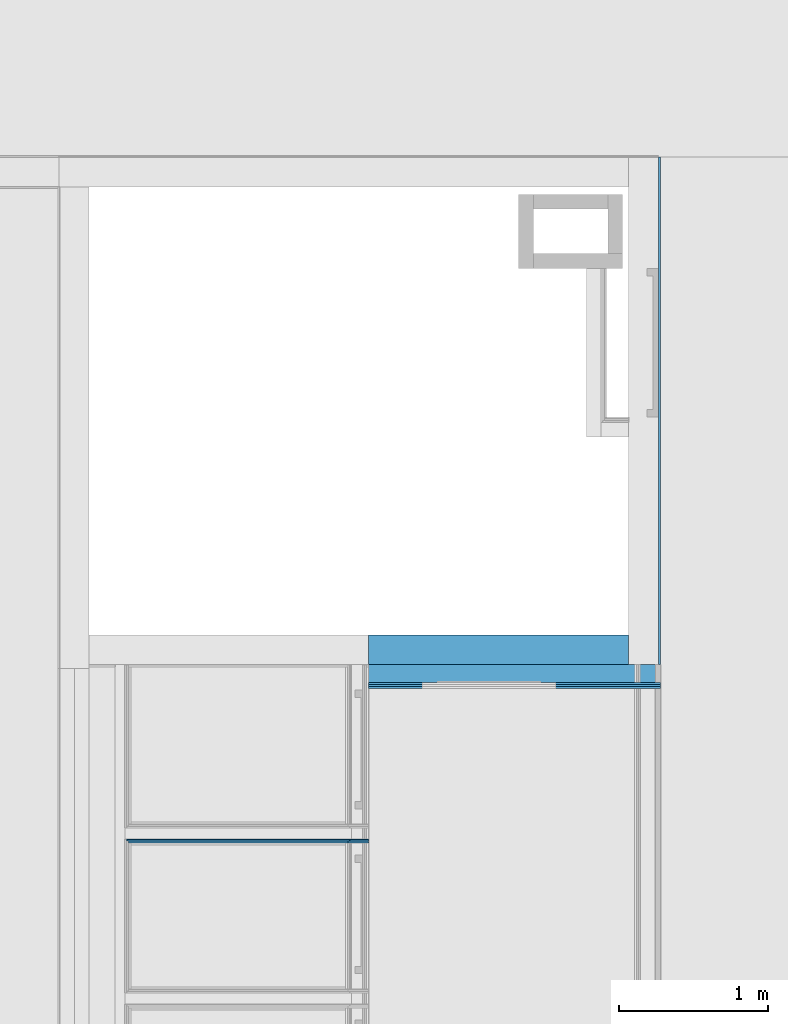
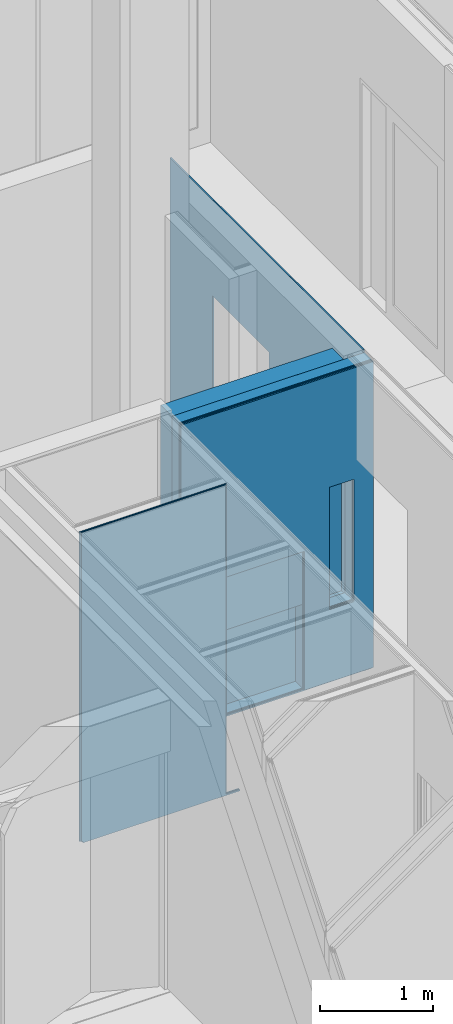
# One storey, part 117 of 139: 8 building element parts, 3 openings, 3 elements without a shape of their own.
"""IFC2X3 building model written with IfcOpenShell, lengths in millimetres."""

import ifcopenshell
import ifcopenshell.guid

model = None  # the IFC model being written
_history = None  # IfcOwnerHistory: only IFC2X3 demands one
_inside = {}  # id of a spatial element -> (the spatial element, [elements in it])
_under = {}  # id of a project, library or spatial element -> (it, [spatial elements below it])
_declared = {}  # id of a project -> (the project, [libraries it declares])
_typed = {}  # id of a type object -> (the type object, [elements of that type])
_made_of = {}  # id of a material, layer set ... -> (it, [elements and type objects made of it])


def new_model(schema):
    """Start an empty IFC model of exactly this schema.

    Asked for "IFC4X3", IfcOpenShell would pick the latest addendum, in which some entities
    have other attributes; the version numbers below select the first issue.
    IFC2X3 requires an IfcOwnerHistory on every rooted entity: one is made here for all.
    """
    global model, _history
    if schema == "IFC4X3":
        model = ifcopenshell.file(schema_version=(4, 3, 0, 0))
    else:
        model = ifcopenshell.file(schema=schema)
    _inside.clear()
    _under.clear()
    _declared.clear()
    _typed.clear()
    _made_of.clear()
    _history = None
    if model.schema == "IFC2X3":
        org = make("IfcOrganization", Name="unknown")
        user = make(
            "IfcPersonAndOrganization",
            ThePerson=make("IfcPerson", FamilyName="unknown"),
            TheOrganization=org,
        )
        app = make(
            "IfcApplication",
            ApplicationDeveloper=org,
            Version="unknown",
            ApplicationFullName="unknown",
            ApplicationIdentifier="unknown",
        )
        _history = make(
            "IfcOwnerHistory",
            OwningUser=user,
            OwningApplication=app,
            ChangeAction="ADDED",
            CreationDate=0,
        )
    return model


def make(cls, **values):
    """One entity of the class cls with the attributes given. An attribute that is None is left unset."""
    return model.create_entity(
        cls, **{name: value for name, value in values.items() if value is not None}
    )


def entity(cls, *values):
    """Any entity or typed value of the class cls, its attributes in the order of the schema. None: left unset."""
    e = model.create_entity(cls)
    for i, value in enumerate(values):
        if value is not None:
            e[i] = value
    return e


def rooted(cls, **values):
    """An entity with a GlobalId (a new one), such as an element, a storey or a relation."""
    return make(cls, GlobalId=ifcopenshell.guid.new(), OwnerHistory=_history, **values)


def si_unit(unit_type, name, prefix=None):
    """IfcSIUnit, for example si_unit("LENGTHUNIT", "METRE", prefix="MILLI")."""
    return make("IfcSIUnit", UnitType=unit_type, Prefix=prefix, Name=name)


def converted_unit(unit_type, name, factor, base, dimensions=None, offset=None):
    """IfcConversionBasedUnit, such as the inch: factor (a typed value) times the base unit."""
    return make(
        "IfcConversionBasedUnit"
        if offset is None
        else "IfcConversionBasedUnitWithOffset",
        ConversionOffset=offset,
        Dimensions=None
        if dimensions is None
        else entity("IfcDimensionalExponents", *dimensions),
        UnitType=unit_type,
        Name=name,
        ConversionFactor=make(
            "IfcMeasureWithUnit", ValueComponent=factor, UnitComponent=base
        ),
    )


def derived_unit(unit_type, elements):
    """IfcDerivedUnit: a product of units, each with its exponent."""
    return make(
        "IfcDerivedUnit",
        Elements=[
            make("IfcDerivedUnitElement", Unit=unit, Exponent=power)
            for unit, power in elements
        ],
        UnitType=unit_type,
    )


def money_unit(currency):
    """IfcMonetaryUnit."""
    return make("IfcMonetaryUnit", Currency=currency)


def assignment(units):
    """IfcUnitAssignment: the units of a project."""
    return None if units is None else make("IfcUnitAssignment", Units=units)


def point(xyz):
    """IfcCartesianPoint."""
    return None if xyz is None else make("IfcCartesianPoint", Coordinates=xyz)


def direction(xyz):
    """IfcDirection."""
    return None if xyz is None else make("IfcDirection", DirectionRatios=xyz)


def frame(location, z_axis=None, x_axis=None):
    """IfcAxis2Placement3D, a coordinate frame: its origin and axes. An axis left out is left unset."""
    return make(
        "IfcAxis2Placement3D",
        Location=point(location),
        Axis=direction(z_axis),
        RefDirection=direction(x_axis),
    )


def origin_with_axes():
    """The frame at (0, 0, 0) with the z axis (0, 0, 1) and the x axis (1, 0, 0) written out."""
    return frame((0.0, 0.0, 0.0), z_axis=(0.0, 0.0, 1.0), x_axis=(1.0, 0.0, 0.0))


def place(relative_to, where):
    """IfcLocalPlacement: puts the frame where relative to a parent placement (None: the world)."""
    return make(
        "IfcLocalPlacement", PlacementRelTo=relative_to, RelativePlacement=where
    )


def context(
    kind, dimensions, precision=None, world=None, true_north=None, identifier=None
):
    """IfcGeometricRepresentationContext, for example the 3D "Model" context."""
    return make(
        "IfcGeometricRepresentationContext",
        ContextIdentifier=identifier,
        ContextType=kind,
        CoordinateSpaceDimension=dimensions,
        Precision=precision,
        WorldCoordinateSystem=world,
        TrueNorth=true_north,
    )


def subcontext(parent, identifier, kind, view, scale=None):
    """IfcGeometricRepresentationSubContext, for example "Body" below "Model"."""
    return make(
        "IfcGeometricRepresentationSubContext",
        ContextIdentifier=identifier,
        ContextType=kind,
        ParentContext=parent,
        TargetScale=scale,
        TargetView=view,
    )


def project(units=None, contexts=None):
    """IfcProject with its units and contexts."""
    return rooted(
        "IfcProject",
        Name="project",
        RepresentationContexts=contexts,
        UnitsInContext=assignment(units),
    )


def spatial(cls, under=None, at=None, **own):
    """A site, building, storey or space (cls), placed at a placement, below another one or the project."""
    s = rooted(cls, ObjectPlacement=at, **own)
    if under is not None:
        _under.setdefault(under.id(), (under, []))[1].append(s)
    return s


def faces_of(points, faces, orient=None, outer=None):
    """IfcFace entities. A face is a list of loops; a loop is a list of indices into points, from 0.

    orient and outer hold one flag for each loop. By default every Orientation is true, the
    first loop of a face is its IfcFaceOuterBound and the others are IfcFaceBound.
    """
    made = []
    for i, loops in enumerate(faces):
        bounds = []
        for j, loop in enumerate(loops):
            is_outer = j == 0 if outer is None else outer[i][j]
            bounds.append(
                make(
                    "IfcFaceOuterBound" if is_outer else "IfcFaceBound",
                    Bound=make("IfcPolyLoop", Polygon=[points[k] for k in loop]),
                    Orientation=True if orient is None else orient[i][j],
                )
            )
        made.append(make("IfcFace", Bounds=bounds))
    return made


def faceted_brep(points, faces, orient=None, outer=None, voids=None):
    """IfcFacetedBrep: a solid bounded by flat faces; with voids (closed shells), ...WithVoids."""
    shared = [point(p) for p in points]
    hull = make("IfcClosedShell", CfsFaces=faces_of(shared, faces, orient, outer))
    if voids is None:
        return make("IfcFacetedBrep", Outer=hull)
    return make(
        "IfcFacetedBrepWithVoids",
        Outer=hull,
        Voids=[
            make(cls, CfsFaces=faces_of(shared, fs, o, b)) for cls, fs, o, b in voids
        ],
    )


def shape(context_of_items, identifier, shape_type, items):
    """IfcShapeRepresentation: the items that make up one representation, for example the "Body"."""
    return make(
        "IfcShapeRepresentation",
        ContextOfItems=context_of_items,
        RepresentationIdentifier=identifier,
        RepresentationType=shape_type,
        Items=items,
    )


def material(Name=None, Category=None):
    """IfcMaterial."""
    return make("IfcMaterial", Name=Name, Category=Category)


def made_of(thing, what):
    """Note that an element or type object is made of a material, layer set ...; save() writes the relation."""
    if what is not None:
        _made_of.setdefault(what.id(), (what, []))[1].append(thing)
    return thing


def type_object(cls, material=None, **own):
    """A type object (cls), such as IfcWallType, which elements share."""
    return made_of(rooted(cls, **own), material)


def element(
    cls,
    number,
    at=None,
    inside=None,
    cuts=None,
    type_object=None,
    material=None,
    context=None,
    identifier="Body",
    shape_type=None,
    held_by="IfcProductDefinitionShape",
    body=None,
    shapes=None,
    **own,
):
    """One element of the class cls, such as IfcWall. Its Tag is "e" and its number.

    at: its placement. inside: the storey or other place that contains it. cuts: it is an
    opening in that element (IfcRelVoidsElement). A single representation is given by context,
    identifier, shape_type and body (its items); several are given by shapes. held_by: the class
    of the entity that holds the representations. save() writes the other relations.
    """
    e = rooted(cls, Tag="e%d" % number, ObjectPlacement=at, **own)
    if body is not None:
        shapes = [shape(context, identifier, shape_type, body)]
    if shapes is not None:
        e.Representation = make(held_by, Representations=shapes)
    if inside is not None:
        _inside.setdefault(inside.id(), (inside, []))[1].append(e)
    if cuts is not None:
        rooted(
            "IfcRelVoidsElement", RelatingBuildingElement=cuts, RelatedOpeningElement=e
        )
    if type_object is not None:
        _typed.setdefault(type_object.id(), (type_object, []))[1].append(e)
    return made_of(e, material)


def aggregate(whole, parts):
    """IfcRelAggregates: a whole, such as a stair, and the parts it consists of."""
    return rooted("IfcRelAggregates", RelatingObject=whole, RelatedObjects=parts)


def save(model, path):
    """Write the relations noted so far, then the file.

    IfcRelAggregates (storeys below a building ...), IfcRelContainedInSpatialStructure (elements
    in a storey), IfcRelDefinesByType, IfcRelAssociatesMaterial and IfcRelDeclares: one each for
    every whole, place, type object, material and project.
    """
    for whole, parts in _under.values():
        aggregate(whole, parts)
    for where, things in _inside.values():
        rooted(
            "IfcRelContainedInSpatialStructure",
            RelatedElements=things,
            RelatingStructure=where,
        )
    for kind, things in _typed.values():
        rooted("IfcRelDefinesByType", RelatedObjects=things, RelatingType=kind)
    for what, things in _made_of.values():
        rooted("IfcRelAssociatesMaterial", RelatedObjects=things, RelatingMaterial=what)
    for by, libraries in _declared.values():
        rooted("IfcRelDeclares", RelatingContext=by, RelatedDefinitions=libraries)
    model.write(path)


model = new_model("IFC2X3")

# Units and contexts
model_context = context("Model", 3, precision=0.01, world=origin_with_axes(), true_north=direction((0.0, 1.0)))
body_context = subcontext(model_context, "Body", "Model", "MODEL_VIEW")
ifc_project = project(units=[si_unit("LENGTHUNIT", "METRE", prefix="MILLI"), si_unit("AREAUNIT", "SQUARE_METRE"), si_unit("VOLUMEUNIT", "CUBIC_METRE"), converted_unit("PLANEANGLEUNIT", "DEGREE", entity("IfcPlaneAngleMeasure", 0.0174532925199), si_unit("PLANEANGLEUNIT", "RADIAN"), dimensions=[0, 0, 0, 0, 0, 0, 0]), money_unit("EUR"), converted_unit("TIMEUNIT", "Year", entity("IfcTimeMeasure", 31556926.0), si_unit("TIMEUNIT", "SECOND"), dimensions=[0, 0, 1, 0, 0, 0, 0]), si_unit("MASSUNIT", "GRAM", prefix="KILO"), si_unit("THERMODYNAMICTEMPERATUREUNIT", "DEGREE_CELSIUS"), si_unit("LUMINOUSINTENSITYUNIT", "LUMEN"), si_unit("ENERGYUNIT", "JOULE", prefix="MEGA"), derived_unit("THERMALCONDUCTANCEUNIT", [(si_unit("POWERUNIT", "WATT"), 1), (si_unit("LENGTHUNIT", "METRE"), -1), (si_unit("THERMODYNAMICTEMPERATUREUNIT", "KELVIN"), -1)]), derived_unit("SPECIFICHEATCAPACITYUNIT", [(si_unit("ENERGYUNIT", "JOULE"), 1), (si_unit("MASSUNIT", "GRAM", prefix="KILO"), -1), (si_unit("THERMODYNAMICTEMPERATUREUNIT", "KELVIN"), -1)]), derived_unit("MASSDENSITYUNIT", [(si_unit("MASSUNIT", "GRAM", prefix="KILO"), 1), (si_unit("VOLUMEUNIT", "CUBIC_METRE"), -1)])], contexts=[model_context])

# Site, building, storey
site_placement = place(None, origin_with_axes())
site = spatial("IfcSite", under=ifc_project, at=site_placement, Name="Kolde pst 67a", CompositionType="ELEMENT")
building_placement = place(site_placement, origin_with_axes())
building = spatial("IfcBuilding", under=site, at=building_placement, Name="Riigigümnaasium", CompositionType="ELEMENT")
storey_placement = place(building_placement, frame((0.0, 0.0, 4600.0), z_axis=(0.0, 0.0, 1.0), x_axis=(1.0, 0.0, 0.0)))
storey = spatial("IfcBuildingStorey", under=building, at=storey_placement, Name="2. korrus", CompositionType="ELEMENT", Elevation=4600.0)

# Wall, opening, building element part
wall_type_1 = type_object("IfcWallType", Name="SS-KP-20/2_plokksein 1xplaaditud (1) 215", PredefinedType="NOTDEFINED")
wall_1_placement = place(storey_placement, frame((73779.99953, 24440.0001779, -130.0), z_axis=(0.0, 0.0, 1.0), x_axis=(0.0, -1.0, 0.0)))
wall_1 = element("IfcWall", 1, at=wall_1_placement, inside=storey, type_object=wall_type_1, Name="Sisesein")
opening_1_placement = place(wall_1_placement, frame((1250.00095477, 0.0, 130.0), z_axis=(0.0, 0.0, 1.0), x_axis=(1.0, 0.0, 0.0)))
element("IfcOpeningElement", 2, at=opening_1_placement, cuts=wall_1, Name="Siseuks", context=body_context, shape_type="Brep", body=[
    faceted_brep([(-500.0, 430.0, 2300.0), (-500.0, 430.0, 0.0), (-500.0, -215.0, 0.0), (-500.0, -215.0, 2300.0), (500.0, 430.0, 2300.0), (500.0, 430.0, 0.0), (500.0, -215.0, 0.0), (500.0, -215.0, 2300.0)], [[[0, 1, 2, 3]], [[0, 4, 5, 1]], [[1, 5, 6, 2]], [[3, 2, 6, 7]], [[4, 0, 3, 7]], [[5, 4, 7, 6]]]),
])
ifc_material_1 = material(Name="_VIIMISTLUSKIHT - viimistlus vastavalt SA osale")
building_element_part_1_placement = place(wall_1_placement, origin_with_axes())
building_element_part_1 = element("IfcBuildingElementPart", 3, at=building_element_part_1_placement, material=ifc_material_1, Name="_VIIMISTLUSKIHT - viimistlus vastavalt SA osale", context=body_context, shape_type="Brep", body=[
    faceted_brep([(1750.00095477, 15.0, 130.0), (1750.00095477, 15.0, 2430.0), (750.000954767, 15.0, 2430.0), (750.000954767, 15.0, 130.0), (0.0, 15.0, 130.0), (0.0, 15.0, 3465.0), (3416.21485491, 15.0, 3464.99999881), (3416.21487002, 15.0, 3430.0), (3416.21487002, 15.0, 130.0), (1750.00095477, -4.17252579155e-05, 130.0), (1750.00095477, -7.66841878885e-05, 2430.0), (750.000954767, -7.66841878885e-05, 2430.0), (750.000954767, -1.78822716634e-05, 130.0), (0.0, 0.0, 130.0), (0.0, 0.0, 3465.0), (3416.21485491, 9.68583435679e-07, 3464.99999881), (3416.21485491, -7.66841878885e-05, 130.0), (3216.21485077, -7.66841878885e-05, 130.0)], [[[0, 1, 2, 3, 4, 5, 6, 7, 8]], [[1, 0, 9, 10]], [[2, 1, 10, 11]], [[3, 2, 11, 12]], [[3, 12, 13, 4]], [[13, 14, 5, 4]], [[14, 15, 6, 5]], [[7, 6, 15, 16, 8]], [[9, 0, 8, 16, 17]], [[10, 9, 17, 16, 15, 14, 13, 12, 11]]]),
])
aggregate(wall_1, [building_element_part_1])

# Wall, building element parts
wall_type_2 = type_object("IfcWallType", Name="SS-MK-7,5/1_plaaditud 155", PredefinedType="NOTDEFINED")
wall_2_placement = place(storey_placement, frame((70229.9982905, 19964.9999708, -15.0), z_axis=(0.0, 0.0, 1.0), x_axis=(1.0, 0.0, 0.0)))
wall_2 = element("IfcWall", 4, at=wall_2_placement, inside=storey, type_object=wall_type_2, Name="Sisesein")
ifc_material_2 = material(Name="_PLAATMATERJAL - kipsplaat veekindel")
building_element_part_2_placement = place(wall_2_placement, origin_with_axes())
building_element_part_2 = element("IfcBuildingElementPart", 5, at=building_element_part_2_placement, material=ifc_material_2, Name="_PLAATMATERJAL - kipsplaat veekindel", context=body_context, shape_type="Brep", body=[
    faceted_brep([(-27.4994919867, -115.0, 3350.0), (1472.50121569, -115.0, 3350.0), (1472.50121569, -115.0, 15.0), (1600.00121569, -115.0, 15.0), (1600.00117477, -115.0, 0.0), (0.0, -115.0, 0.0), (0.0, -115.0, 15.0), (-27.4994919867, -115.0, 15.0), (1472.50121724, -127.5, 3350.0), (-27.4994919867, -127.5, 3350.0), (1472.50121724, -127.5, 15.0), (1600.00121724, -127.5, 15.0), (1600.00117477, -127.5, 0.0), (0.0, -127.5, 0.0), (0.0, -127.5, 15.0), (-27.4994919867, -127.5, 15.0)], [[[0, 1, 2, 3, 4, 5, 6, 7]], [[8, 1, 0, 9]], [[1, 8, 10, 2]], [[3, 2, 10, 11]], [[4, 3, 11, 12]], [[13, 5, 4, 12]], [[13, 14, 6, 5]], [[14, 15, 7, 6]], [[9, 0, 7, 15]], [[8, 9, 15, 14, 13, 12, 11, 10]]]),
])
building_element_part_3_placement = place(wall_2_placement, origin_with_axes())
building_element_part_3 = element("IfcBuildingElementPart", 6, at=building_element_part_3_placement, material=ifc_material_2, Name="_PLAATMATERJAL - kipsplaat veekindel", context=body_context, shape_type="Brep", body=[
    faceted_brep([(-14.9994932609, -127.5, 3350.0), (1460.00121814, -127.5, 3350.0), (1460.00121724, -127.5, 15.0), (1600.00121724, -127.5, 15.0), (1600.00117477, -127.5, 0.0), (0.0, -127.5, 0.0), (0.0, -127.5, 15.0), (-14.9994919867, -127.5, 15.0), (1460.00121969, -140.0, 3350.0), (-14.9994932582, -140.0, 3350.0), (1460.00121879, -140.0, 15.0), (1600.00121879, -140.0, 15.0), (1600.00117477, -140.0, 0.0), (0.0, -140.0, 0.0), (0.0, -140.0, 15.0), (-14.9994919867, -140.0, 15.0)], [[[0, 1, 2, 3, 4, 5, 6, 7]], [[8, 1, 0, 9]], [[1, 8, 10, 2]], [[3, 2, 10, 11]], [[4, 3, 11, 12]], [[13, 5, 4, 12]], [[13, 14, 6, 5]], [[14, 15, 7, 6]], [[9, 0, 7, 15]], [[8, 9, 15, 14, 13, 12, 11, 10]]]),
])
aggregate(wall_2, [building_element_part_2, building_element_part_3])

# Wall, openings, building element parts
wall_type_3 = type_object("IfcWallType", Name="SS-KP-20/5_plokksein 1xplaaditud+kollektor 360", PredefinedType="NOTDEFINED")
wall_3_placement = place(storey_placement, frame((71829.9993607, 21023.7853079, -80.0), z_axis=(0.0, 0.0, 1.0), x_axis=(1.0, 7.74960108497e-09, 0.0)))
wall_3 = element("IfcWall", 7, at=wall_3_placement, inside=storey, type_object=wall_type_3, Name="Sisesein")
opening_2_placement = place(wall_3_placement, frame((-71829.9995236, -21023.7847512, -4520.0), z_axis=(0.0, 0.0, 1.0), x_axis=(1.0, -7.74960108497e-09, 0.0)))
element("IfcOpeningElement", 8, at=opening_2_placement, cuts=wall_3, Name="Tulekustuti nišš vastavalt SA osale", ObjectType="OPENING", context=body_context, shape_type="Brep", body=[
    faceted_brep([(73344.9995316, 20863.7853194, 5380.0), (73344.9995316, 20863.7853194, 6700.0), (73344.9995301, 21063.7853194, 6700.0), (73344.9995301, 21063.7853194, 5380.0), (73594.9995316, 20863.7853213, 5380.0), (73594.9995316, 20863.7853213, 6700.0), (73594.9995301, 21063.7853213, 6700.0), (73594.9995301, 21063.7853213, 5380.0)], [[[0, 1, 2, 3]], [[0, 4, 5, 1]], [[1, 5, 6, 2]], [[3, 2, 6, 7]], [[4, 0, 3, 7]], [[5, 4, 7, 6]]]),
])
opening_3_placement = place(wall_3_placement, frame((-71829.9995236, -21023.7847512, -4520.0), z_axis=(0.0, 0.0, 1.0), x_axis=(1.0, -7.74960108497e-09, 0.0)))
element("IfcOpeningElement", 9, at=opening_3_placement, cuts=wall_3, Name="Küttekollektori nišš, luuk vastavalt SA osale", ObjectType="OPENING", context=body_context, shape_type="Brep", body=[
    faceted_brep([(72189.9995313, 20863.7853067, 4600.0), (72189.9995313, 20863.7853067, 5500.0), (72189.99953, 21023.7853067, 5500.0), (72189.99953, 21023.7853067, 4600.0), (73089.9995313, 20863.7853136, 4600.0), (73089.9995313, 20863.7853136, 5500.0), (73089.99953, 21023.7853136, 5500.0), (73089.99953, 21023.7853136, 4600.0)], [[[0, 1, 2, 3]], [[0, 4, 5, 1]], [[1, 5, 6, 2]], [[3, 2, 6, 7]], [[4, 0, 3, 7]], [[5, 4, 7, 6]]]),
])
ifc_material_3 = material(Name="_KANDETARIND - kergplokk Fibo3 200mm")
building_element_part_4_placement = place(wall_3_placement, origin_with_axes())
building_element_part_4 = element("IfcBuildingElementPart", 10, at=building_element_part_4_placement, material=ifc_material_3, Name="_KANDETARIND - kergplokk Fibo3 200mm", context=body_context, shape_type="Brep", body=[
    faceted_brep([(1750.00016936, -1.35618023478e-05, 3380.0), (0.0, 0.0, 3380.0), (0.0, 0.0, 0.0), (1750.00016936, -1.35618023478e-05, 0.0), (1750.00016936, -1.35618023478e-05, 860.0), (1515.00016969, -1.17406457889e-05, 860.0), (1515.00016969, -1.17406457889e-05, 2180.0), (1750.00016936, -1.35618023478e-05, 2180.0), (1750.00017091, 199.999986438, 3380.0), (1.54992108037e-06, 200.0, 3380.0), (1.54992108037e-06, 200.0, 0.0), (1750.00017091, 199.999986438, 0.0), (1750.00016967, 39.9999997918, 2180.0), (1750.00016967, 39.9999997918, 860.0), (1515.00016969, 39.9999997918, 860.0), (1515.00016969, 39.9999997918, 2180.0)], [[[0, 1, 2, 3, 4, 5, 6, 7]], [[8, 9, 1, 0]], [[2, 1, 9, 10]], [[3, 2, 10, 11]], [[4, 3, 11, 8, 0, 7, 12, 13]], [[14, 5, 4, 13]], [[15, 6, 5, 14]], [[12, 7, 6, 15]], [[11, 10, 9, 8]], [[13, 12, 15, 14]]]),
])
ifc_material_4 = material(Name="_KARKASS - eriprofiilkinnitus vastavalt sisemisele plaatviimistlusele")
building_element_part_5_placement = place(wall_3_placement, origin_with_axes())
building_element_part_5 = element("IfcBuildingElementPart", 11, at=building_element_part_5_placement, material=ifc_material_4, Name="_KARKASS - eriprofiilkinnitus vastavalt sisemisele plaatviimistlusele", context=body_context, shape_type="Brep", body=[
    faceted_brep([(1950.00009174, -120.000015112, 77.0), (1950.00016843, -120.000015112, 65.0), (1950.00016936, -1.51117234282e-05, 65.0), (1950.00009267, -1.51117234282e-05, 77.0), (-9.29944121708e-07, -120.0, 3380.0), (-9.29944121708e-07, -120.0, 65.0), (1965.00016843, -120.000015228, 77.0), (1965.00016843, -120.000015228, 3380.0), (1515.00016969, -120.000011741, 2180.0), (1765.00016969, -120.000013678, 2180.0), (1765.00016969, -120.000013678, 860.0), (1515.00016969, -120.000011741, 860.0), (360.000169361, -120.00000279, 980.0), (1260.00016936, -120.000009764, 980.0), (1260.00016936, -120.000009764, 80.0), (360.000169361, -120.00000279, 80.0), (0.0, 0.0, 65.0), (0.0, 0.0, 3380.0), (1965.00016936, -1.52279682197e-05, 3380.0), (1965.00016936, -1.52279682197e-05, 77.0), (1765.00016969, -1.36780471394e-05, 860.0), (1765.00016969, -1.36780471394e-05, 2180.0), (1515.00016969, -1.17406457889e-05, 2180.0), (1515.00016969, -1.17406457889e-05, 860.0), (1260.00016936, -4.00020994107e-06, 80.0), (1260.00016936, -4.00020994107e-06, 980.0), (360.00016936, -4.00020994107e-06, 980.0), (360.00016936, -4.00020994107e-06, 80.0)], [[[0, 1, 2, 3]], [[4, 5, 1, 0, 6, 7], [8, 9, 10, 11], [12, 13, 14, 15]], [[5, 16, 2, 1]], [[3, 2, 16, 17, 18, 19], [20, 21, 22, 23], [24, 25, 26, 27]], [[0, 3, 19, 6]], [[17, 16, 5, 4]], [[7, 6, 19, 18]], [[4, 7, 18, 17]], [[21, 9, 8, 22]], [[20, 10, 9, 21]], [[23, 11, 10, 20]], [[22, 8, 11, 23]], [[25, 13, 12, 26]], [[24, 14, 13, 25]], [[27, 15, 14, 24]], [[26, 12, 15, 27]]]),
])
building_element_part_6_placement = place(wall_3_placement, origin_with_axes())
building_element_part_6 = element("IfcBuildingElementPart", 12, at=building_element_part_6_placement, material=ifc_material_2, Name="_PLAATMATERJAL - kipsplaat veekindel", context=body_context, shape_type="Brep", body=[
    faceted_brep([(1950.00009174, -120.000015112, 77.0), (1950.00016843, -120.000015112, 65.0), (-9.29944121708e-07, -120.0, 65.0), (-9.29944121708e-07, -120.0, 3380.0), (1965.00016843, -120.000015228, 3380.0), (1965.00016843, -120.000015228, 77.0), (1765.00016969, -120.000013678, 860.0), (1765.00016969, -120.000013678, 2180.0), (1515.00016969, -120.000011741, 2180.0), (1515.00016969, -120.000011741, 860.0), (360.000162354, -119.999997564, 1580.0), (360.000162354, -119.999997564, 980.0), (360.000169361, -120.00000279, 80.0), (1260.00016936, -120.000009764, 80.0), (1260.00018049, -120.000004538, 980.0), (1260.00018049, -120.000004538, 1580.0), (1950.00009165, -132.500015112, 77.0), (1950.00016833, -132.500015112, 65.0), (-1.0268195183e-06, -132.5, 65.0), (-1.0268195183e-06, -132.5, 3380.0), (1965.00016833, -132.500015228, 3380.0), (1965.00016833, -132.500015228, 77.0), (1765.00016969, -132.500013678, 860.0), (1765.00016969, -132.500013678, 2180.0), (1515.00016969, -132.500011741, 2180.0), (1515.00016969, -132.500011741, 860.0), (360.000162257, -132.499997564, 1580.0), (360.000162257, -132.499997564, 980.0), (360.00016936, -132.50000279, 80.0), (1260.00016936, -132.500009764, 80.0), (1260.0001804, -132.500004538, 980.0), (1260.0001804, -132.500004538, 1580.0)], [[[0, 1, 2, 3, 4, 5], [6, 7, 8, 9], [10, 11, 12, 13, 14, 15]], [[16, 17, 1, 0]], [[18, 2, 1, 17]], [[3, 2, 18, 19]], [[19, 20, 4, 3]], [[20, 21, 5, 4]], [[16, 0, 5, 21]], [[6, 22, 23, 7]], [[7, 23, 24, 8]], [[8, 24, 25, 9]], [[9, 25, 22, 6]], [[11, 10, 26, 27]], [[11, 27, 28, 12]], [[12, 28, 29, 13]], [[30, 14, 13, 29]], [[15, 14, 30, 31]], [[10, 15, 31, 26]], [[19, 18, 17, 16, 21, 20], [24, 23, 22, 25], [31, 30, 29, 28, 27, 26]]]),
])
building_element_part_7_placement = place(wall_3_placement, origin_with_axes())
building_element_part_7 = element("IfcBuildingElementPart", 13, at=building_element_part_7_placement, material=ifc_material_2, Name="_PLAATMATERJAL - kipsplaat veekindel", context=body_context, shape_type="Brep", body=[
    faceted_brep([(1950.00009165, -132.500015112, 77.0), (1950.00016833, -132.500015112, 65.0), (-1.0268195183e-06, -132.5, 65.0), (-1.0268195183e-06, -132.5, 3380.0), (1965.00016833, -132.500015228, 3380.0), (1965.00016833, -132.500015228, 77.0), (1765.00016969, -132.500013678, 860.0), (1765.00016969, -132.500013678, 2180.0), (1515.00016969, -132.500011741, 2180.0), (1515.00016969, -132.500011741, 860.0), (360.000162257, -132.499997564, 1580.0), (360.000162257, -132.499997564, 980.0), (360.00016936, -132.50000279, 80.0), (1260.00016936, -132.500009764, 80.0), (1260.0001804, -132.500004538, 980.0), (1260.0001804, -132.500004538, 1580.0), (1950.00009155, -145.000015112, 77.0), (1950.00016824, -145.000015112, 65.0), (-1.12368070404e-06, -145.0, 65.0), (-1.12368070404e-06, -145.0, 3380.0), (1965.00016824, -145.000015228, 3380.0), (1965.00016824, -145.000015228, 77.0), (1765.00016969, -145.000013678, 860.0), (1765.00016969, -145.000013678, 2180.0), (1515.00016969, -145.000011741, 2180.0), (1515.00016969, -145.000011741, 860.0), (360.00016216, -144.999997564, 1580.0), (360.00016216, -144.999997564, 980.0), (360.000169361, -145.00000279, 80.0), (1260.00016936, -145.000009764, 80.0), (1260.0001803, -145.000004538, 980.0), (1260.0001803, -145.000004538, 1580.0)], [[[0, 1, 2, 3, 4, 5], [6, 7, 8, 9], [10, 11, 12, 13, 14, 15]], [[16, 17, 1, 0]], [[18, 2, 1, 17]], [[3, 2, 18, 19]], [[19, 20, 4, 3]], [[20, 21, 5, 4]], [[16, 0, 5, 21]], [[6, 22, 23, 7]], [[7, 23, 24, 8]], [[8, 24, 25, 9]], [[9, 25, 22, 6]], [[11, 10, 26, 27]], [[11, 27, 28, 12]], [[12, 28, 29, 13]], [[30, 14, 13, 29]], [[15, 14, 30, 31]], [[10, 15, 31, 26]], [[19, 18, 17, 16, 21, 20], [24, 23, 22, 25], [31, 30, 29, 28, 27, 26]]]),
])
building_element_part_8_placement = place(wall_3_placement, origin_with_axes())
building_element_part_8 = element("IfcBuildingElementPart", 14, at=building_element_part_8_placement, material=ifc_material_1, Name="_VIIMISTLUSKIHT - viimistlus vastavalt SA osale", context=body_context, shape_type="Brep", body=[
    faceted_brep([(360.00016216, -144.999997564, 1580.0), (360.00016216, -144.999997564, 980.0), (360.000169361, -145.00000279, 80.0), (-1.12368070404e-06, -145.0, 80.0), (-1.12368070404e-06, -145.0, 3380.0), (1965.00016824, -145.000015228, 3380.0), (1965.00016824, -145.000015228, 80.0), (1260.00016936, -145.000009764, 80.0), (1260.0001803, -145.000004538, 980.0), (1260.0001803, -145.000004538, 1580.0), (1765.00016969, -145.000013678, 860.0), (1765.00016969, -145.000013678, 2180.0), (1515.00016969, -145.000011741, 2180.0), (1515.00016969, -145.000011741, 860.0), (360.000162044, -159.999997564, 1580.0), (360.000162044, -159.999997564, 980.0), (360.000169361, -160.000004, 80.0), (-1.23992549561e-06, -160.0, 80.0), (-1.23992549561e-06, -160.0, 3380.0), (1965.00016812, -160.000015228, 3380.0), (1965.00016812, -160.000015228, 80.0), (1260.00016936, -160.000004, 80.0), (1260.00018018, -160.000004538, 980.0), (1260.00018018, -160.000004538, 1580.0), (1765.00016969, -160.000000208, 860.0), (1765.00016969, -160.000000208, 2180.0), (1515.00016969, -160.000000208, 2180.0), (1515.00016969, -160.000000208, 860.0)], [[[0, 1, 2, 3, 4, 5, 6, 7, 8, 9], [10, 11, 12, 13]], [[1, 0, 14, 15]], [[1, 15, 16, 2]], [[17, 3, 2, 16]], [[4, 3, 17, 18]], [[18, 19, 5, 4]], [[19, 20, 6, 5]], [[6, 20, 21, 7]], [[22, 8, 7, 21]], [[9, 8, 22, 23]], [[0, 9, 23, 14]], [[10, 24, 25, 11]], [[11, 25, 26, 12]], [[12, 26, 27, 13]], [[13, 27, 24, 10]], [[23, 22, 21, 20, 19, 18, 17, 16, 15, 14], [26, 25, 24, 27]]]),
])
aggregate(wall_3, [building_element_part_4, building_element_part_5, building_element_part_6, building_element_part_7, building_element_part_8])

save(model, "model.ifc")
